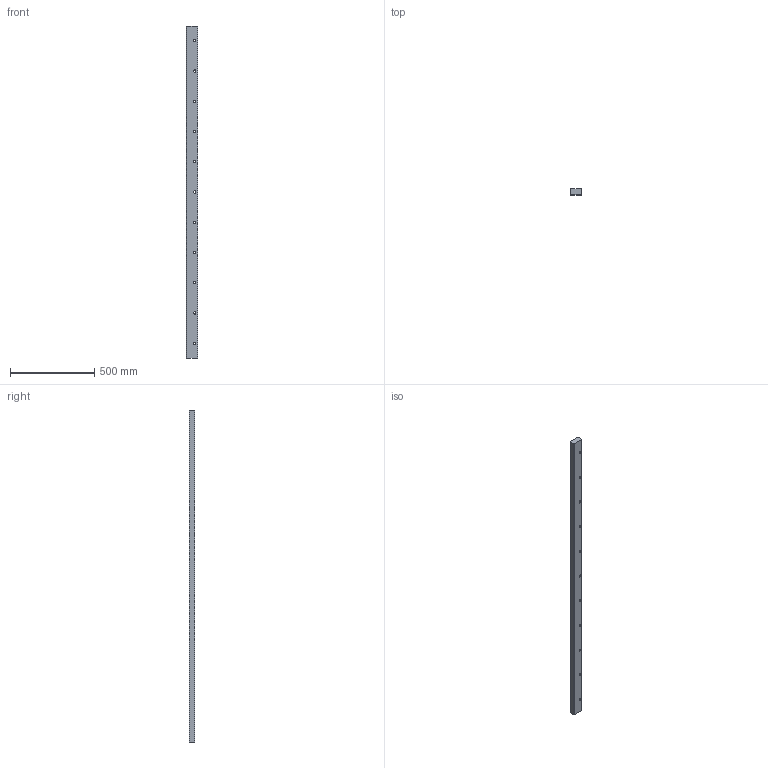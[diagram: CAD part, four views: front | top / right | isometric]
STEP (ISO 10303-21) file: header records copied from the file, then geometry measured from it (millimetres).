
FILE_DESCRIPTION(('STEP AP203'),'1');
FILE_NAME('track_ft6633l1976p1.stp','2022-07-04T01:42:54',('TraceParts'),('TraceParts S.A.'),'Spatial InterOp 3D',' ',' ');
FILE_SCHEMA(('CONFIG_CONTROL_DESIGN'));
Length unit declared in the file: millimetre
Products named in the file (1): 1
Bounding box: 66 x 33 x 1976 mm (x, y, z)
Volume: 4224170 mm3; surface area: 406964.5 mm2
Topology: 1 solids, 1 shells, 65 faces, 156 edges, 104 vertices
Faces by surface type: cylinder 44, plane 21
Entity records: 2026 total; most frequent: DIRECTION 376, CARTESIAN_POINT 326, ORIENTED_EDGE 312, EDGE_CURVE 156, AXIS2_PLACEMENT_3D 154, VERTEX_POINT 104, EDGE_LOOP 98, CIRCLE 88
